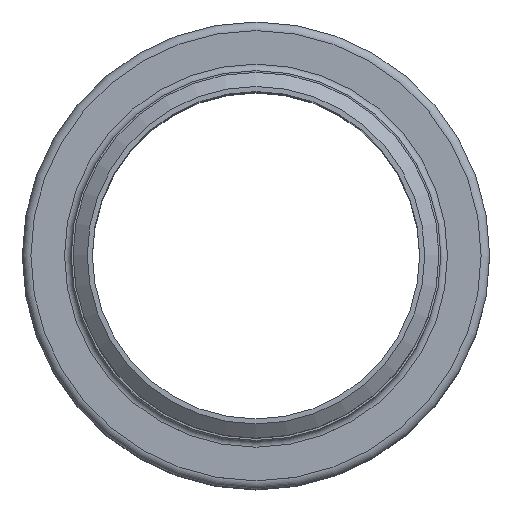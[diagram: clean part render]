
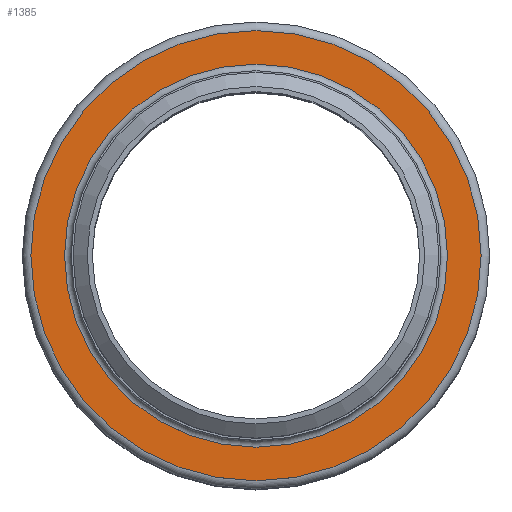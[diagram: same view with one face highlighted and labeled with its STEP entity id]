
A CAD part, top view. The second image highlights one B-rep face of the part: STEP entity #1385.
In plain terms, the highlighted planar face has unit normal (0, 0, 1).
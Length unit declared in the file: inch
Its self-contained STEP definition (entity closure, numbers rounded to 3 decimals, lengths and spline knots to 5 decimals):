
#155=FACE_BOUND('',#416,.T.);
#256=FACE_OUTER_BOUND('',#415,.T.);
#415=EDGE_LOOP('',(#1168));
#416=EDGE_LOOP('',(#1169));
#584=CIRCLE('',#1684,2.35575);
#585=CIRCLE('',#1686,2.76925);
#703=VERTEX_POINT('',#2631);
#704=VERTEX_POINT('',#2635);
#862=EDGE_CURVE('',#703,#703,#584,.T.);
#863=EDGE_CURVE('',#704,#704,#585,.T.);
#1168=ORIENTED_EDGE('',*,*,#863,.F.);
#1169=ORIENTED_EDGE('',*,*,#862,.T.);
#1284=PLANE('',#1685);
#1385=ADVANCED_FACE('',(#256,#155),#1284,.T.);
#1684=AXIS2_PLACEMENT_3D('',#2633,#2197,#2198);
#1685=AXIS2_PLACEMENT_3D('',#2634,#2199,#2200);
#1686=AXIS2_PLACEMENT_3D('',#2636,#2201,#2202);
#2197=DIRECTION('center_axis',(0.,0.,-1.));
#2198=DIRECTION('ref_axis',(1.,0.,0.));
#2199=DIRECTION('center_axis',(0.,0.,1.));
#2200=DIRECTION('ref_axis',(1.,0.,0.));
#2201=DIRECTION('center_axis',(0.,0.,-1.));
#2202=DIRECTION('ref_axis',(1.,0.,0.));
#2631=CARTESIAN_POINT('',(2.35575,0.,-0.08175));
#2633=CARTESIAN_POINT('Origin',(0.,0.,-0.08175));
#2634=CARTESIAN_POINT('Origin',(0.,2.76925,-0.08175));
#2635=CARTESIAN_POINT('',(2.76925,0.,-0.08175));
#2636=CARTESIAN_POINT('Origin',(0.,0.,-0.08175));
